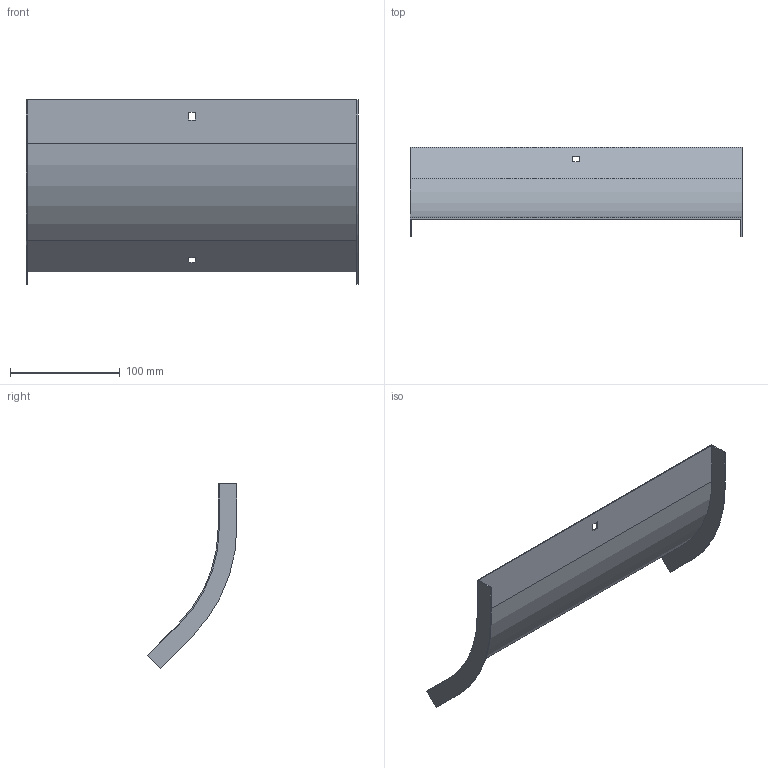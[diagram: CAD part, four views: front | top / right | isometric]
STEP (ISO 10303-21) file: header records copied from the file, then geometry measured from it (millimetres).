
FILE_DESCRIPTION (( 'STEP AP214' ), '1' );
FILE_NAME ('OS4_300.step', '2025-07-16T09:16:41', ( '' ), ( '' ), 'SwSTEP 2.0', 'SolidWorks 2023', '' );
FILE_SCHEMA (( 'AUTOMOTIVE_DESIGN' ));
Length unit declared in the file: millimetre
Products named in the file (1): OS4_300
Bounding box: 302 x 81.6 x 167.99 mm (x, y, z)
Volume: 59508.8 mm3; surface area: 120118.4 mm2
Topology: 1 solids, 1 shells, 26 faces, 72 edges, 48 vertices
Faces by surface type: plane 22, cylinder 4
Entity records: 855 total; most frequent: CARTESIAN_POINT 147, ORIENTED_EDGE 144, DIRECTION 134, EDGE_CURVE 72, VECTOR 64, LINE 64, VERTEX_POINT 48, AXIS2_PLACEMENT_3D 35
